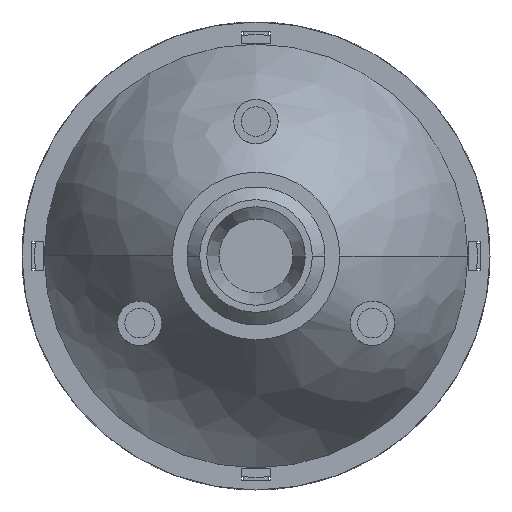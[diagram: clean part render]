
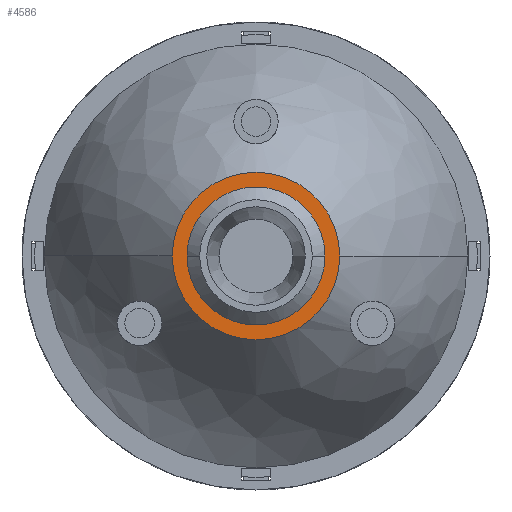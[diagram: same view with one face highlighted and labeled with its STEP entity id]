
A CAD part, front view. The second image highlights one B-rep face of the part: STEP entity #4586.
In plain terms, the highlighted planar face has unit normal (0, -1, 0).
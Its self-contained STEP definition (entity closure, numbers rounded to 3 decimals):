
#1103 = VERTEX_POINT ( 'NONE', #1734 ) ;
#1123 = VERTEX_POINT ( 'NONE', #1901 ) ;
#1186 = ORIENTED_EDGE ( 'NONE', *, *, #4558, .F. ) ;
#1200 = ORIENTED_EDGE ( 'NONE', *, *, #4224, .T. ) ;
#1233 = VERTEX_POINT ( 'NONE', #1892 ) ;
#1250 = VERTEX_POINT ( 'NONE', #1938 ) ;
#1308 = ORIENTED_EDGE ( 'NONE', *, *, #4249, .F. ) ;
#1310 = ORIENTED_EDGE ( 'NONE', *, *, #4583, .T. ) ;
#1510 = CARTESIAN_POINT ( 'NONE',  ( 0., 1.1, 0. ) ) ;
#1521 = DIRECTION ( 'NONE',  ( 0., 1., 0. ) ) ;
#1541 = EDGE_LOOP ( 'NONE', ( #1200, #1310 ) ) ;
#1614 = DIRECTION ( 'NONE',  ( 1., 0., 0. ) ) ;
#1629 = DIRECTION ( 'NONE',  ( 0., 1., 0. ) ) ;
#1670 = DIRECTION ( 'NONE',  ( 1., 0., 0. ) ) ;
#1734 = CARTESIAN_POINT ( 'NONE',  ( -7., 1.1, 0. ) ) ;
#1752 = CARTESIAN_POINT ( 'NONE',  ( 0., 1.1, 0. ) ) ;
#1766 = EDGE_LOOP ( 'NONE', ( #1308, #1186 ) ) ;
#1892 = CARTESIAN_POINT ( 'NONE',  ( 7., 1.1, 0. ) ) ;
#1901 = CARTESIAN_POINT ( 'NONE',  ( -8.5, 1.1, 0. ) ) ;
#1938 = CARTESIAN_POINT ( 'NONE',  ( 8.5, 1.1, 0. ) ) ;
#2723 = AXIS2_PLACEMENT_3D ( 'NONE', #4111, #4112, #4113 ) ;
#2795 = AXIS2_PLACEMENT_3D ( 'NONE', #4151, #4152, #4153 ) ;
#2853 = CIRCLE ( 'NONE', #2723, 7. ) ;
#2896 = CIRCLE ( 'NONE', #2909, 8.5 ) ;
#2909 = AXIS2_PLACEMENT_3D ( 'NONE', #2999, #3000, #3001 ) ;
#2999 = CARTESIAN_POINT ( 'NONE',  ( 0., 1.1, 0. ) ) ;
#3000 = DIRECTION ( 'NONE',  ( 0., 1., 0. ) ) ;
#3001 = DIRECTION ( 'NONE',  ( 1., 0., 0. ) ) ;
#4111 = CARTESIAN_POINT ( 'NONE',  ( 0., 1.1, 0. ) ) ;
#4112 = DIRECTION ( 'NONE',  ( 0., 1., 0. ) ) ;
#4113 = DIRECTION ( 'NONE',  ( 1., 0., 0. ) ) ;
#4125 = FACE_BOUND ( 'NONE', #1541, .T. ) ;
#4140 = FACE_OUTER_BOUND ( 'NONE', #1766, .T. ) ;
#4142 = PLANE ( 'NONE',  #2795 ) ;
#4151 = CARTESIAN_POINT ( 'NONE',  ( 0., 1.1, 0. ) ) ;
#4152 = DIRECTION ( 'NONE',  ( 0., -1., 0. ) ) ;
#4153 = DIRECTION ( 'NONE',  ( 1., 0., 0. ) ) ;
#4224 = EDGE_CURVE ( 'NONE', #1233, #1103, #4839, .T. ) ;
#4249 = EDGE_CURVE ( 'NONE', #1250, #1123, #4716, .T. ) ;
#4558 = EDGE_CURVE ( 'NONE', #1123, #1250, #2896, .T. ) ;
#4583 = EDGE_CURVE ( 'NONE', #1103, #1233, #2853, .T. ) ;
#4586 = ADVANCED_FACE ( 'NONE', ( #4140, #4125 ), #4142, .T. ) ;
#4663 = AXIS2_PLACEMENT_3D ( 'NONE', #1510, #1521, #1614 ) ;
#4716 = CIRCLE ( 'NONE', #4777, 8.5 ) ;
#4777 = AXIS2_PLACEMENT_3D ( 'NONE', #1752, #1629, #1670 ) ;
#4839 = CIRCLE ( 'NONE', #4663, 7. ) ;
